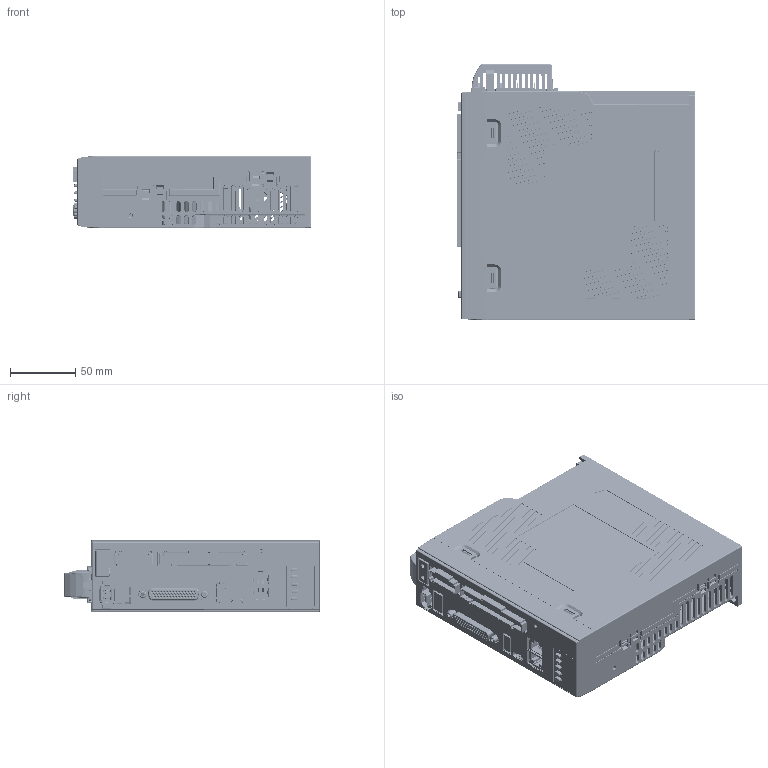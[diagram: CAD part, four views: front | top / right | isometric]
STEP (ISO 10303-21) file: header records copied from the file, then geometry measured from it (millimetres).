
FILE_DESCRIPTION((''),'2;1');
FILE_NAME('L7P-1500T_FK_ASM','2023-05-29T',('Administrator'),(''),'PRO/ENGINEER BY PARAMETRIC TECHNOLOGY CORPORATION, 2010280','PRO/ENGINEER BY PARAMETRIC TECHNOLOGY CORPORATION, 2010280','');
FILE_SCHEMA(('CONFIG_CONTROL_DESIGN','SHAPE_APPEARANCE_LAYERS_GROUPS'));
Products named in the file (44): BREP_WITH_VOIDS_14969; MANIFOLD_SOLID_BREP_15204; PRT0001_ASM_ASM; PRT0003; PRT0004; PRT0005; PRT0006; PRT0007; PRT0008; PRT0009; PRT0010; PRT0011; PRT0013; PRT0014; PRT0015; PRT0016; PRT0017; PRT0018; PRT0019; PRT0021; PRT0022; PRT0023; PRT0024; PRT0025; PRT0026; PRT0027; PRT0028; PRT0029; PRT0030; PRT0031; PRT0032; PRT0033; PRT0034; PRT0035; PRT0036; PRT0037; ASM0002_ASM_ASM_ASM; DB_L8EC1K5_17; ASM0001_ASM_ASM_ASM; FF_L7P_1K5T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
Assembly tree (43 placements, depth 6):
  L7P-1500T_FK_ASM
    L7P-1500T-20230130_ASM_ASM
      ASM0001_ASM_ASM_ASM
        ASM0002_ASM_ASM_ASM
          PRT0001_ASM_ASM
            BREP_WITH_VOIDS_14969
            MANIFOLD_SOLID_BREP_15204
          PRT0003
          PRT0004
          PRT0005
          PRT0006
          PRT0007
          PRT0008
          PRT0009
          PRT0010
          PRT0011
          PRT0013
          PRT0014
          PRT0015
          PRT0016
          PRT0017
          PRT0018
          PRT0019
          PRT0021
          PRT0022
          PRT0023
          PRT0024
          PRT0025
          PRT0026
          PRT0027
          PRT0028
          PRT0029
          PRT0030
          PRT0031
          PRT0032
          PRT0033
          PRT0034
          PRT0035
          PRT0036
          PRT0037
        DB_L8EC1K5_17
      L7P-1500T-V1_2-20230201_ASM_ASM
        ADMI3AC84F57E81K_ASM_ASM
          FF_L7P_1K5T
Bounding box: 182.8 x 196.03 x 55.1 mm (x, y, z)
Volume: 636417 mm3; surface area: 556111.5 mm2
Topology: 37 solids, 38 shells, 8995 faces, 24916 edges, 16035 vertices
Faces by surface type: plane 5773, cylinder 1884, cone 530, torus 299, bspline 260, sphere 231, extrusion 18
Entity records: 382114 total; most frequent: CARTESIAN_POINT 75412, ORIENTED_EDGE 49350, DIRECTION 45339, EDGE_CURVE 24675, PRESENTATION_STYLE_ASSIGNMENT 22307, STYLED_ITEM 20289, CURVE_STYLE 19883, VECTOR 17693
